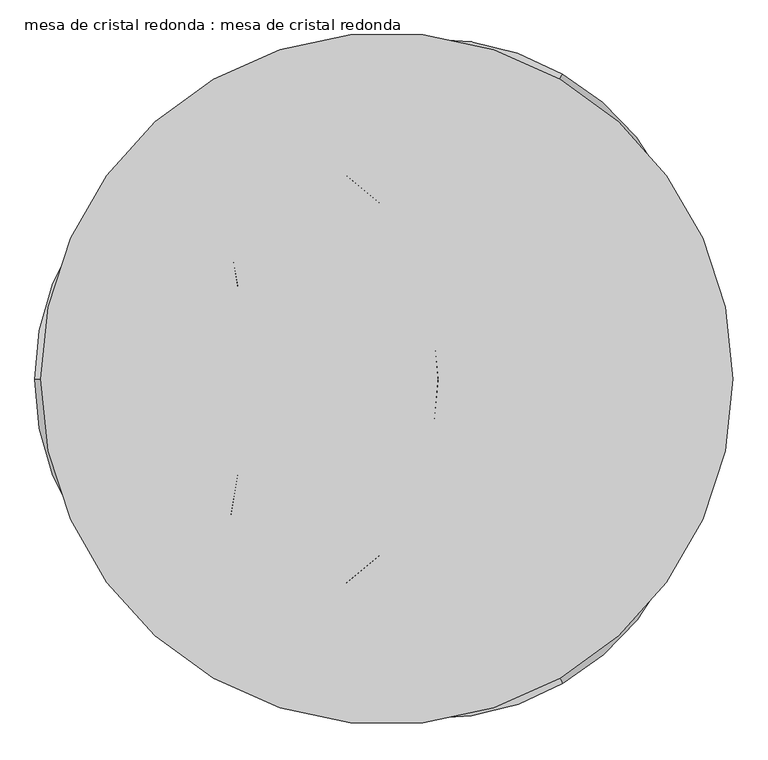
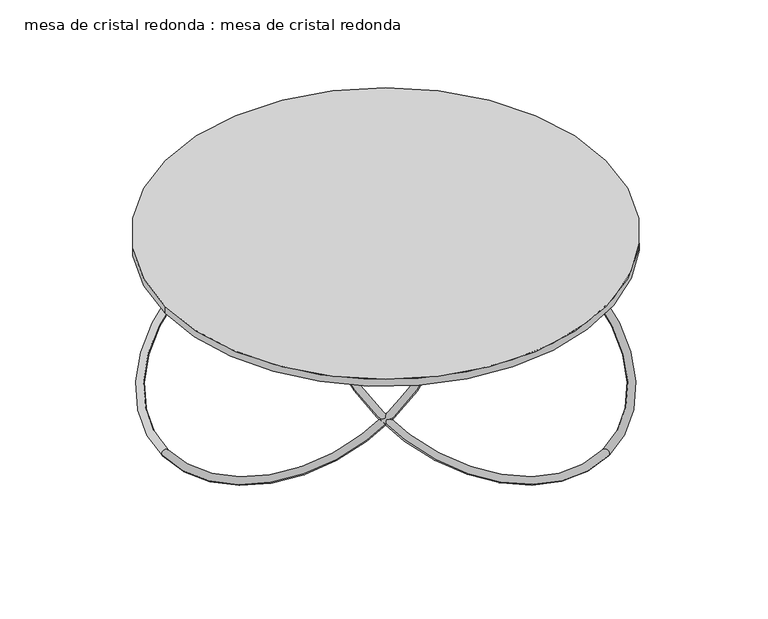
"""IFC4 building model written with IfcOpenShell, lengths in millimetres: furniture geometry, mesa de cristal redonda : mesa de cristal redonda."""

from ifc_helpers import new_model, si_unit, point, frame, origin, origin_2d, place, context, project, spatial, circle_curve, ellipse_curve, trimmed, segment, composite_curve, outline, extrude, source, transform, mapped, element, save
from ifc_brep_helpers import revolved_surface, advanced_brep


def mesa_de_cristal_redonda_mesa_de_cristal_redonda_6508b132(model_context):
    return source(origin(), model_context, "Body", "SolidModel", [
        advanced_brep(
        [(-44.2494314, 78.0522681, 384.3138973), (296.4016691, -511.9727456, 4.5411876), (305.1363127, -527.1015921, -5.1965741), (-52.984075, 93.1811146, 394.0516591)],
        [
            (0, 1, circle_curve(frame((126.0761188, -216.9602388, 194.4275425), z_axis=(-0.24344404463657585, 0.4216574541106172, -0.8734643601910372), x_axis=(0.4367321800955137, -0.7564423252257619, -0.48688808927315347)), 390.0)),
            (1, 2, circle_curve(frame((300.7689909, -519.5371689, -0.3276933), z_axis=(0.866025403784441, 0.49999999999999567, 0.0), x_axis=(-0.436732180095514, 0.7564423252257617, 0.4868880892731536)), 10.0)),
            (2, 3, circle_curve(frame((126.0761188, -216.9602388, 194.4275425), z_axis=(0.24344404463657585, -0.4216574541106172, 0.8734643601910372), x_axis=(0.4367321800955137, -0.7564423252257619, -0.48688808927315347)), 410.0)),
            (3, 0, circle_curve(frame((-48.6167532, 85.6166913, 389.1827782), z_axis=(0.8660254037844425, 0.4999999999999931, 0.0), x_axis=(0.43673218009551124, -0.7564423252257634, -0.48688808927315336)), 10.0)),
            (2, 1, circle_curve(frame((300.7689909, -519.5371689, -0.3276933), z_axis=(0.866025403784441, 0.49999999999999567, 0.0), x_axis=(-0.436732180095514, 0.7564423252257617, 0.4868880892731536)), 10.0)),
            (0, 3, circle_curve(frame((-48.6167532, 85.6166913, 389.1827782), z_axis=(0.8660254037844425, 0.4999999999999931, 0.0), x_axis=(0.43673218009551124, -0.7564423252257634, -0.48688808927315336)), 10.0)),
            (1, 0, circle_curve(frame((126.0761188, -216.9602388, 194.4275425), z_axis=(-0.24344404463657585, 0.4216574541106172, -0.8734643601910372), x_axis=(-0.43673218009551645, 0.7564423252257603, 0.48688808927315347)), 390.0)),
            (3, 2, circle_curve(frame((126.0761188, -216.9602388, 194.4275425), z_axis=(0.24344404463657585, -0.4216574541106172, 0.8734643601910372), x_axis=(-0.43673218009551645, 0.7564423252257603, 0.48688808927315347)), 410.0)),
        ],
        [
            revolved_surface(trimmed(ellipse_curve(frame((300.7689909, -519.5371689, -0.3276933), z_axis=(-0.866025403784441, -0.49999999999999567, 0.0), x_axis=(-0.436732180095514, 0.7564423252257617, 0.4868880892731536)), 10.0, 10.0), [point((305.1363127, -527.1015921, -5.1965741))], [point((296.4016691, -511.9727456, 4.5411876))], True, "CARTESIAN"), (126.0761188, -216.9602388, 194.4275425), (0.2434440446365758, -0.4216574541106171, 0.873464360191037)),
            revolved_surface(trimmed(ellipse_curve(frame((300.7689909, -519.5371689, -0.3276933), z_axis=(-0.866025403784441, -0.49999999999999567, 0.0), x_axis=(-0.436732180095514, 0.7564423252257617, 0.4868880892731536)), 10.0, 10.0), [point((296.4016691, -511.9727456, 4.5411876))], [point((305.1363127, -527.1015921, -5.1965741))], True, "CARTESIAN"), (126.0761188, -216.9602388, 194.4275425), (0.2434440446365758, -0.4216574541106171, 0.873464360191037)),
            revolved_surface(trimmed(ellipse_curve(frame((-48.6167532, 85.6166913, 389.1827782), z_axis=(0.8660254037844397, 0.4999999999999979, 0.0), x_axis=(0.43673218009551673, -0.7564423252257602, -0.4868880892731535)), 10.0, 10.0), [point((-52.984075, 93.1811146, 394.0516591))], [point((-44.2494314, 78.0522681, 384.3138973))], True, "CARTESIAN"), (126.0761188, -216.9602388, 194.4275425), (0.2434440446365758, -0.4216574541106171, 0.873464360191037)),
            revolved_surface(trimmed(ellipse_curve(frame((-48.6167532, 85.6166913, 389.1827782), z_axis=(0.8660254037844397, 0.4999999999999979, 0.0), x_axis=(0.43673218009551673, -0.7564423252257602, -0.4868880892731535)), 10.0, 10.0), [point((-44.2494314, 78.0522681, 384.3138973))], [point((-52.984075, 93.1811146, 394.0516591))], True, "CARTESIAN"), (126.0761188, -216.9602388, 194.4275425), (0.2434440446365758, -0.4216574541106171, 0.873464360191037)),
        ],
        [
            (0, [[1, 2, 3, 4]]),
            (1, [[-3, 5, -1, 6]]),
            (2, [[7, -4, 8, -2]]),
            (3, [[-8, -6, -7, -5]]),
        ],
    ),
        advanced_brep(
        [(-45.4705313, -77.3472657, 384.3138973), (295.1805692, 512.6777479, 4.5411876), (303.9152128, 527.8065944, -5.1965741), (-54.2051749, -92.4761122, 394.0516591)],
        [
            (0, 1, circle_curve(frame((124.855019, 217.6652411, 194.4275425), z_axis=(-0.24344404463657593, -0.42165745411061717, -0.8734643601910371), x_axis=(0.43673218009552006, 0.7564423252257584, -0.4868880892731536)), 390.0)),
            (1, 2, circle_curve(frame((299.547891, 520.2421712, -0.3276933), z_axis=(-0.8660254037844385, 0.5000000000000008, 0.0), x_axis=(-0.4367321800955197, -0.7564423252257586, 0.48688808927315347)), 10.0)),
            (2, 3, circle_curve(frame((124.855019, 217.6652411, 194.4275425), z_axis=(0.24344404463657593, 0.42165745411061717, 0.8734643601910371), x_axis=(0.43673218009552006, 0.7564423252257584, -0.4868880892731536)), 410.0)),
            (3, 0, circle_curve(frame((-49.8378531, -84.911689, 389.1827782), z_axis=(-0.8660254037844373, 0.500000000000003, 0.0), x_axis=(0.43673218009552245, 0.756442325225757, -0.4868880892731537)), 10.0)),
            (2, 1, circle_curve(frame((299.547891, 520.2421712, -0.3276933), z_axis=(-0.8660254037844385, 0.5000000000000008, 0.0), x_axis=(-0.4367321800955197, -0.7564423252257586, 0.48688808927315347)), 10.0)),
            (0, 3, circle_curve(frame((-49.8378531, -84.911689, 389.1827782), z_axis=(-0.8660254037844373, 0.500000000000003, 0.0), x_axis=(0.43673218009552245, 0.756442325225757, -0.4868880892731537)), 10.0)),
            (1, 0, circle_curve(frame((124.855019, 217.6652411, 194.4275425), z_axis=(-0.24344404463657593, -0.42165745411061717, -0.8734643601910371), x_axis=(-0.4367321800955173, -0.75644232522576, 0.4868880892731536)), 390.0)),
            (3, 2, circle_curve(frame((124.855019, 217.6652411, 194.4275425), z_axis=(0.24344404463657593, 0.42165745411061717, 0.8734643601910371), x_axis=(-0.4367321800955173, -0.75644232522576, 0.4868880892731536)), 410.0)),
        ],
        [
            revolved_surface(trimmed(ellipse_curve(frame((299.547891, 520.2421712, -0.3276933), z_axis=(0.8660254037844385, -0.5000000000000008, 0.0), x_axis=(-0.4367321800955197, -0.7564423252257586, 0.48688808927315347)), 10.0, 10.0), [point((303.9152128, 527.8065944, -5.1965741))], [point((295.1805692, 512.6777479, 4.5411876))], True, "CARTESIAN"), (124.855019, 217.6652411, 194.4275425), (0.24344404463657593, 0.42165745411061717, 0.8734643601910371)),
            revolved_surface(trimmed(ellipse_curve(frame((299.547891, 520.2421712, -0.3276933), z_axis=(0.8660254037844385, -0.5000000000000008, 0.0), x_axis=(-0.4367321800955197, -0.7564423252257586, 0.48688808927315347)), 10.0, 10.0), [point((295.1805692, 512.6777479, 4.5411876))], [point((303.9152128, 527.8065944, -5.1965741))], True, "CARTESIAN"), (124.855019, 217.6652411, 194.4275425), (0.24344404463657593, 0.42165745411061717, 0.8734643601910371)),
            revolved_surface(trimmed(ellipse_curve(frame((-49.8378531, -84.911689, 389.1827782), z_axis=(-0.86602540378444, 0.49999999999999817, 0.0), x_axis=(0.43673218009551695, 0.7564423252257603, -0.48688808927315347)), 10.0, 10.0), [point((-54.2051749, -92.4761122, 394.0516591))], [point((-45.4705313, -77.3472657, 384.3138973))], True, "CARTESIAN"), (124.855019, 217.6652411, 194.4275425), (0.24344404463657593, 0.42165745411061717, 0.8734643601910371)),
            revolved_surface(trimmed(ellipse_curve(frame((-49.8378531, -84.911689, 389.1827782), z_axis=(-0.86602540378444, 0.49999999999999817, 0.0), x_axis=(0.43673218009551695, 0.7564423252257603, -0.48688808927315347)), 10.0, 10.0), [point((-45.4705313, -77.3472657, 384.3138973))], [point((-54.2051749, -92.4761122, 394.0516591))], True, "CARTESIAN"), (124.855019, 217.6652411, 194.4275425), (0.24344404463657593, 0.42165745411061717, 0.8734643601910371)),
        ],
        [
            (0, [[1, 2, 3, 4]]),
            (1, [[-3, 5, -1, 6]]),
            (2, [[7, -4, 8, -2]]),
            (3, [[-8, -6, -7, -5]]),
        ],
    ),
        advanced_brep(
        [(89.7199627, -0.7050023, 384.3138973), (-591.5822383, -0.7050023, 4.5411876), (-609.0515255, -0.7050023, -5.1965741), (107.1892499, -0.7050023, 394.0516591)],
        [
            (0, 1, circle_curve(frame((-250.9311378, -0.7050023, 194.4275425), z_axis=(0.4868880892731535, 0.0, -0.8734643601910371), x_axis=(-0.8734643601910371, 0.0, -0.4868880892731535)), 390.0)),
            (1, 2, circle_curve(frame((-600.3168819, -0.7050023, -0.3276933), z_axis=(0.0, -1.0000000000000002, 0.0), x_axis=(0.8734643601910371, 0.0, 0.4868880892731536)), 10.0)),
            (2, 3, circle_curve(frame((-250.9311378, -0.7050023, 194.4275425), z_axis=(-0.4868880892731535, 0.0, 0.8734643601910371), x_axis=(-0.8734643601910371, 0.0, -0.4868880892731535)), 410.0)),
            (3, 0, circle_curve(frame((98.4546063, -0.7050023, 389.1827782), z_axis=(0.0, -1.0000000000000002, 0.0), x_axis=(-0.8734643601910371, 0.0, -0.48688808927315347)), 10.0)),
            (2, 1, circle_curve(frame((-600.3168819, -0.7050023, -0.3276933), z_axis=(0.0, -1.0000000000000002, 0.0), x_axis=(0.8734643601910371, 0.0, 0.4868880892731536)), 10.0)),
            (0, 3, circle_curve(frame((98.4546063, -0.7050023, 389.1827782), z_axis=(0.0, -1.0000000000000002, 0.0), x_axis=(-0.8734643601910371, 0.0, -0.48688808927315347)), 10.0)),
            (1, 0, circle_curve(frame((-250.9311378, -0.7050023, 194.4275425), z_axis=(0.4868880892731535, 0.0, -0.8734643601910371), x_axis=(0.8734643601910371, 0.0, 0.4868880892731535)), 390.0)),
            (3, 2, circle_curve(frame((-250.9311378, -0.7050023, 194.4275425), z_axis=(-0.4868880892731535, 0.0, 0.8734643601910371), x_axis=(0.8734643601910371, 0.0, 0.4868880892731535)), 410.0)),
        ],
        [
            revolved_surface(trimmed(ellipse_curve(frame((-600.3168819, -0.7050023, -0.3276933), z_axis=(0.0, 1.0000000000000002, 0.0), x_axis=(0.8734643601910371, 0.0, 0.4868880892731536)), 10.0, 10.0), [point((-609.0515255, -0.7050023, -5.1965741))], [point((-591.5822383, -0.7050023, 4.5411876))], True, "CARTESIAN"), (-250.9311378, -0.7050023, 194.4275425), (-0.4868880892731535, 0.0, 0.8734643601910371)),
            revolved_surface(trimmed(ellipse_curve(frame((-600.3168819, -0.7050023, -0.3276933), z_axis=(0.0, 1.0000000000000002, 0.0), x_axis=(0.8734643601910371, 0.0, 0.4868880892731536)), 10.0, 10.0), [point((-591.5822383, -0.7050023, 4.5411876))], [point((-609.0515255, -0.7050023, -5.1965741))], True, "CARTESIAN"), (-250.9311378, -0.7050023, 194.4275425), (-0.4868880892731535, 0.0, 0.8734643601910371)),
            revolved_surface(trimmed(ellipse_curve(frame((98.4546063, -0.7050023, 389.1827782), z_axis=(0.0, -1.0000000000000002, 0.0), x_axis=(-0.8734643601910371, 0.0, -0.4868880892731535)), 10.0, 10.0), [point((107.1892499, -0.7050023, 394.0516591))], [point((89.7199627, -0.7050023, 384.3138973))], True, "CARTESIAN"), (-250.9311378, -0.7050023, 194.4275425), (-0.4868880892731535, 0.0, 0.8734643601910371)),
            revolved_surface(trimmed(ellipse_curve(frame((98.4546063, -0.7050023, 389.1827782), z_axis=(0.0, -1.0000000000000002, 0.0), x_axis=(-0.8734643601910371, 0.0, -0.4868880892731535)), 10.0, 10.0), [point((89.7199627, -0.7050023, 384.3138973))], [point((107.1892499, -0.7050023, 394.0516591))], True, "CARTESIAN"), (-250.9311378, -0.7050023, 194.4275425), (-0.4868880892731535, 0.0, 0.8734643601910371)),
        ],
        [
            (0, [[1, 2, 3, 4]]),
            (1, [[-3, 5, -1, 6]]),
            (2, [[7, -4, 8, -2]]),
            (3, [[-8, -6, -7, -5]]),
        ],
    ),
        extrude(outline(composite_curve([segment(trimmed(circle_curve(origin_2d(), 600.0), [point((-600.0, 0.0))], [point((600.0, 0.0))], False, "CARTESIAN"), True, "CONTINUOUS"), segment(trimmed(circle_curve(origin_2d(), 600.0), [point((600.0, 0.0))], [point((-600.0, 0.0))], False, "CARTESIAN"), True, "CONTINUOUS")], self_intersect=False)), frame((0.0, 0.0, 400.0), z_axis=(0.0, 0.0, 1.0), x_axis=(1.0, 0.0, 0.0)), (0.0, 0.0, 1.0), 20.0),
    ])


if __name__ == "__main__":
    model = new_model("IFC4")
    model_context = context("Model", 3, world=origin())
    ifc_project = project(units=[si_unit("LENGTHUNIT", "METRE", prefix="MILLI")], contexts=[model_context])
    site = spatial("IfcSite", under=ifc_project)
    building = spatial("IfcBuilding", under=site)
    placement = place(None, origin())
    mesa_de_cristal_redonda_mesa_de_cristal_redonda_shape = mesa_de_cristal_redonda_mesa_de_cristal_redonda_6508b132(model_context)
    element("IfcFurniture", 1, ObjectType="mesa de cristal redonda : mesa de cristal redonda", at=placement, inside=building, context=model_context, shape_type="MappedRepresentation", body=[
        mapped(mesa_de_cristal_redonda_mesa_de_cristal_redonda_shape, transform((0.0, 0.0, 0.0), x_axis=(1.0, 0.0, 0.0), y_axis=(0.0, 1.0, 0.0), z_axis=(0.0, 0.0, 1.0))),
    ])
    save(model, "model.ifc")
